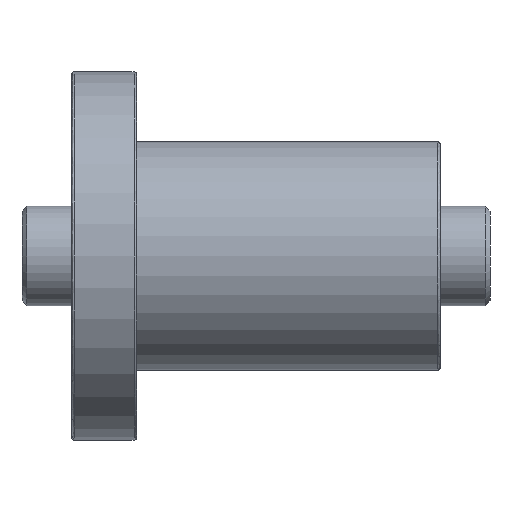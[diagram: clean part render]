
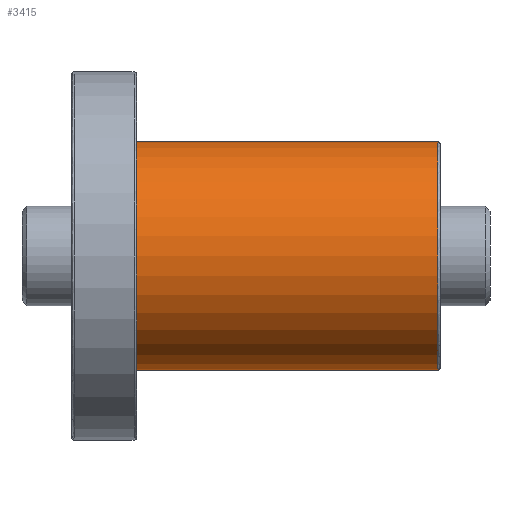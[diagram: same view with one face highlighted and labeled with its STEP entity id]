
A CAD part, front view. The second image highlights one B-rep face of the part: STEP entity #3415.
In plain terms, the highlighted cylindrical face has radius 23 mm (diameter 46 mm), a partial arc.
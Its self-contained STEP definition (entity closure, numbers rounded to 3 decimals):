
#28 = CYLINDRICAL_SURFACE ( 'NONE', #686, 23. ) ;
#187 = AXIS2_PLACEMENT_3D ( 'NONE', #6717, #5373, #1519 ) ;
#400 = VERTEX_POINT ( 'NONE', #4752 ) ;
#558 = CARTESIAN_POINT ( 'NONE',  ( 74., 0., -23. ) ) ;
#629 = FACE_OUTER_BOUND ( 'NONE', #4165, .T. ) ;
#686 = AXIS2_PLACEMENT_3D ( 'NONE', #7678, #7732, #3228 ) ;
#977 = CARTESIAN_POINT ( 'NONE',  ( 74., 0., 23. ) ) ;
#1145 = ORIENTED_EDGE ( 'NONE', *, *, #6725, .F. ) ;
#1519 = DIRECTION ( 'NONE',  ( 0., 0., 1. ) ) ;
#2279 = ORIENTED_EDGE ( 'NONE', *, *, #5729, .T. ) ;
#2316 = VECTOR ( 'NONE', #3500, 1000. ) ;
#2915 = EDGE_CURVE ( 'NONE', #6692, #3908, #2966, .T. ) ;
#2966 = CIRCLE ( 'NONE', #187, 23. ) ;
#3019 = DIRECTION ( 'NONE',  ( 1., 0., 0. ) ) ;
#3146 = LINE ( 'NONE', #977, #2316 ) ;
#3184 = CIRCLE ( 'NONE', #7285, 23. ) ;
#3223 = CARTESIAN_POINT ( 'NONE',  ( 73.5, 0., -23. ) ) ;
#3228 = DIRECTION ( 'NONE',  ( 0., 0., 1. ) ) ;
#3415 = ADVANCED_FACE ( 'NONE', ( #629 ), #28, .T. ) ;
#3500 = DIRECTION ( 'NONE',  ( -1., 0., 0. ) ) ;
#3809 = CARTESIAN_POINT ( 'NONE',  ( 13., 0., 23. ) ) ;
#3908 = VERTEX_POINT ( 'NONE', #5401 ) ;
#4165 = EDGE_LOOP ( 'NONE', ( #1145, #8230, #2279, #8184 ) ) ;
#4752 = CARTESIAN_POINT ( 'NONE',  ( 13., 0., -23. ) ) ;
#5373 = DIRECTION ( 'NONE',  ( -1., 0., 0. ) ) ;
#5401 = CARTESIAN_POINT ( 'NONE',  ( 73.5, 0., 23. ) ) ;
#5528 = VECTOR ( 'NONE', #6559, 1000. ) ;
#5595 = CARTESIAN_POINT ( 'NONE',  ( 13., 0., 0. ) ) ;
#5729 = EDGE_CURVE ( 'NONE', #3908, #7015, #3146, .T. ) ;
#6559 = DIRECTION ( 'NONE',  ( -1., 0., 0. ) ) ;
#6692 = VERTEX_POINT ( 'NONE', #3223 ) ;
#6717 = CARTESIAN_POINT ( 'NONE',  ( 73.5, 0., 0. ) ) ;
#6725 = EDGE_CURVE ( 'NONE', #6692, #400, #7675, .T. ) ;
#6997 = DIRECTION ( 'NONE',  ( 0., 0., 1. ) ) ;
#7015 = VERTEX_POINT ( 'NONE', #3809 ) ;
#7285 = AXIS2_PLACEMENT_3D ( 'NONE', #5595, #3019, #6997 ) ;
#7675 = LINE ( 'NONE', #558, #5528 ) ;
#7678 = CARTESIAN_POINT ( 'NONE',  ( 74., 0., 0. ) ) ;
#7732 = DIRECTION ( 'NONE',  ( -1., 0., 0. ) ) ;
#8184 = ORIENTED_EDGE ( 'NONE', *, *, #8364, .T. ) ;
#8230 = ORIENTED_EDGE ( 'NONE', *, *, #2915, .T. ) ;
#8364 = EDGE_CURVE ( 'NONE', #7015, #400, #3184, .T. ) ;
